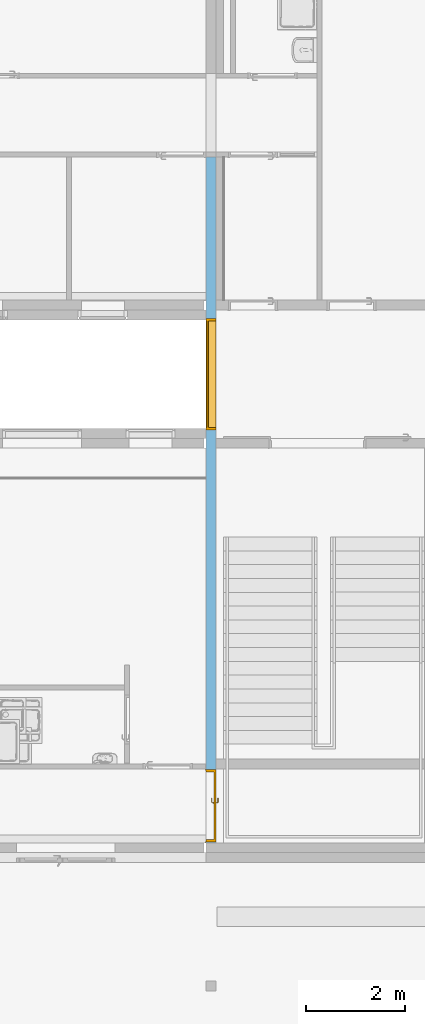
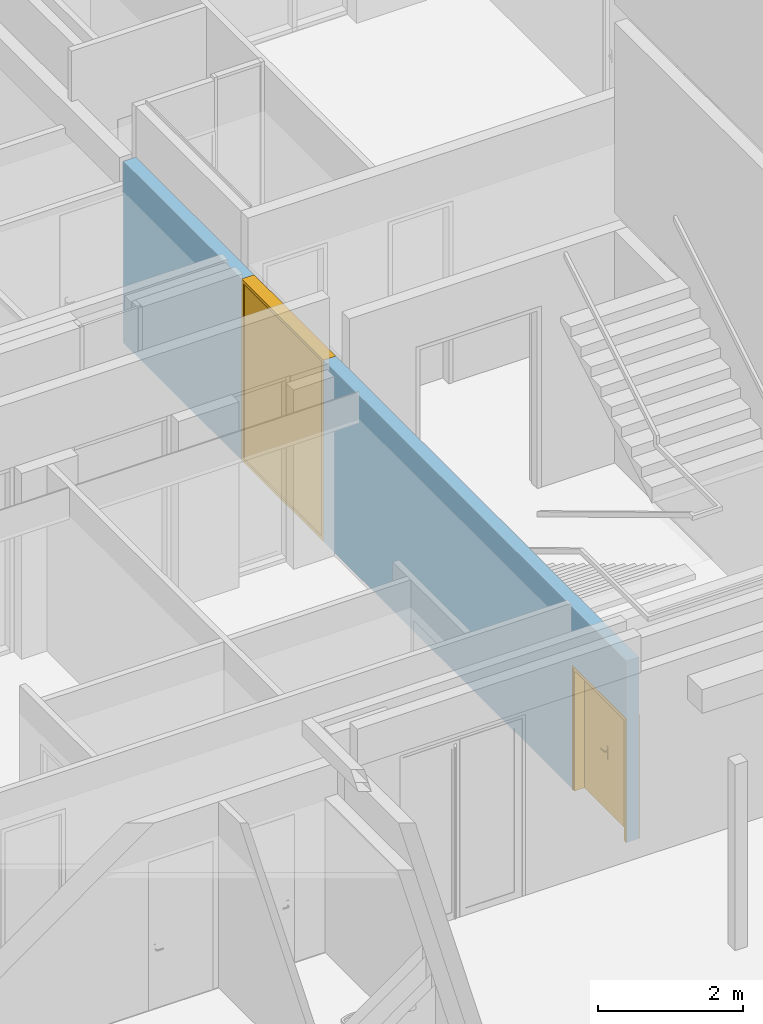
# One storey, part 210 of 240: 1 door, 1 window, 2 openings, plus 1 element that does not belong to this part.
"""IFC2X3 building model written with IfcOpenShell, lengths in centimetres."""

import ifcopenshell
import ifcopenshell.guid

model = None  # the IFC model being written
_history = None  # IfcOwnerHistory: only IFC2X3 demands one
_inside = {}  # id of a spatial element -> (the spatial element, [elements in it])
_under = {}  # id of a project, library or spatial element -> (it, [spatial elements below it])
_declared = {}  # id of a project -> (the project, [libraries it declares])
_typed = {}  # id of a type object -> (the type object, [elements of that type])
_made_of = {}  # id of a material, layer set ... -> (it, [elements and type objects made of it])


def new_model(schema):
    """Start an empty IFC model of exactly this schema.

    Asked for "IFC4X3", IfcOpenShell would pick the latest addendum, in which some entities
    have other attributes; the version numbers below select the first issue.
    IFC2X3 requires an IfcOwnerHistory on every rooted entity: one is made here for all.
    """
    global model, _history
    if schema == "IFC4X3":
        model = ifcopenshell.file(schema_version=(4, 3, 0, 0))
    else:
        model = ifcopenshell.file(schema=schema)
    _inside.clear()
    _under.clear()
    _declared.clear()
    _typed.clear()
    _made_of.clear()
    _history = None
    if model.schema == "IFC2X3":
        org = make("IfcOrganization", Name="unknown")
        user = make(
            "IfcPersonAndOrganization",
            ThePerson=make("IfcPerson", FamilyName="unknown"),
            TheOrganization=org,
        )
        app = make(
            "IfcApplication",
            ApplicationDeveloper=org,
            Version="unknown",
            ApplicationFullName="unknown",
            ApplicationIdentifier="unknown",
        )
        _history = make(
            "IfcOwnerHistory",
            OwningUser=user,
            OwningApplication=app,
            ChangeAction="ADDED",
            CreationDate=0,
        )
    return model


def make(cls, **values):
    """One entity of the class cls with the attributes given. An attribute that is None is left unset."""
    return model.create_entity(
        cls, **{name: value for name, value in values.items() if value is not None}
    )


def entity(cls, *values):
    """Any entity or typed value of the class cls, its attributes in the order of the schema. None: left unset."""
    e = model.create_entity(cls)
    for i, value in enumerate(values):
        if value is not None:
            e[i] = value
    return e


def rooted(cls, **values):
    """An entity with a GlobalId (a new one), such as an element, a storey or a relation."""
    return make(cls, GlobalId=ifcopenshell.guid.new(), OwnerHistory=_history, **values)


def si_unit(unit_type, name, prefix=None):
    """IfcSIUnit, for example si_unit("LENGTHUNIT", "METRE", prefix="MILLI")."""
    return make("IfcSIUnit", UnitType=unit_type, Prefix=prefix, Name=name)


def converted_unit(unit_type, name, factor, base, dimensions=None, offset=None):
    """IfcConversionBasedUnit, such as the inch: factor (a typed value) times the base unit."""
    return make(
        "IfcConversionBasedUnit"
        if offset is None
        else "IfcConversionBasedUnitWithOffset",
        ConversionOffset=offset,
        Dimensions=None
        if dimensions is None
        else entity("IfcDimensionalExponents", *dimensions),
        UnitType=unit_type,
        Name=name,
        ConversionFactor=make(
            "IfcMeasureWithUnit", ValueComponent=factor, UnitComponent=base
        ),
    )


def derived_unit(unit_type, elements):
    """IfcDerivedUnit: a product of units, each with its exponent."""
    return make(
        "IfcDerivedUnit",
        Elements=[
            make("IfcDerivedUnitElement", Unit=unit, Exponent=power)
            for unit, power in elements
        ],
        UnitType=unit_type,
    )


def assignment(units):
    """IfcUnitAssignment: the units of a project."""
    return None if units is None else make("IfcUnitAssignment", Units=units)


def point(xyz):
    """IfcCartesianPoint."""
    return None if xyz is None else make("IfcCartesianPoint", Coordinates=xyz)


def direction(xyz):
    """IfcDirection."""
    return None if xyz is None else make("IfcDirection", DirectionRatios=xyz)


def frame(location, z_axis=None, x_axis=None):
    """IfcAxis2Placement3D, a coordinate frame: its origin and axes. An axis left out is left unset."""
    return make(
        "IfcAxis2Placement3D",
        Location=point(location),
        Axis=direction(z_axis),
        RefDirection=direction(x_axis),
    )


def frame_2d(location, x_axis=None):
    """IfcAxis2Placement2D, a coordinate frame in the plane: its origin and x axis."""
    return make(
        "IfcAxis2Placement2D", Location=point(location), RefDirection=direction(x_axis)
    )


def origin():
    """The frame at (0, 0, 0) with its axes left unset."""
    return frame((0.0, 0.0, 0.0))


def place(relative_to, where):
    """IfcLocalPlacement: puts the frame where relative to a parent placement (None: the world)."""
    return make(
        "IfcLocalPlacement", PlacementRelTo=relative_to, RelativePlacement=where
    )


def context(
    kind, dimensions, precision=None, world=None, true_north=None, identifier=None
):
    """IfcGeometricRepresentationContext, for example the 3D "Model" context."""
    return make(
        "IfcGeometricRepresentationContext",
        ContextIdentifier=identifier,
        ContextType=kind,
        CoordinateSpaceDimension=dimensions,
        Precision=precision,
        WorldCoordinateSystem=world,
        TrueNorth=true_north,
    )


def subcontext(parent, identifier, kind, view, scale=None):
    """IfcGeometricRepresentationSubContext, for example "Body" below "Model"."""
    return make(
        "IfcGeometricRepresentationSubContext",
        ContextIdentifier=identifier,
        ContextType=kind,
        ParentContext=parent,
        TargetScale=scale,
        TargetView=view,
    )


def project(units=None, contexts=None):
    """IfcProject with its units and contexts."""
    return rooted(
        "IfcProject",
        Name="project",
        RepresentationContexts=contexts,
        UnitsInContext=assignment(units),
    )


def spatial(cls, under=None, at=None, **own):
    """A site, building, storey or space (cls), placed at a placement, below another one or the project."""
    s = rooted(cls, ObjectPlacement=at, **own)
    if under is not None:
        _under.setdefault(under.id(), (under, []))[1].append(s)
    return s


def profile(cls, at=None, kind="AREA", **sizes):
    """A parametric profile (cls). Its sizes go by their IFC names, for example OverallWidth=200.0."""
    return make(cls, ProfileType=kind, Position=at, **sizes)


def rectangle(**sizes):
    """IfcRectangleProfileDef."""
    return profile("IfcRectangleProfileDef", **sizes)


def extrude(swept, where, along, depth):
    """IfcExtrudedAreaSolid: the profile swept, set in the frame where, extruded along a direction by depth."""
    return make(
        "IfcExtrudedAreaSolid",
        SweptArea=swept,
        Position=where,
        ExtrudedDirection=direction(along),
        Depth=depth,
    )


def faces_of(points, faces, orient=None, outer=None):
    """IfcFace entities. A face is a list of loops; a loop is a list of indices into points, from 0.

    orient and outer hold one flag for each loop. By default every Orientation is true, the
    first loop of a face is its IfcFaceOuterBound and the others are IfcFaceBound.
    """
    made = []
    for i, loops in enumerate(faces):
        bounds = []
        for j, loop in enumerate(loops):
            is_outer = j == 0 if outer is None else outer[i][j]
            bounds.append(
                make(
                    "IfcFaceOuterBound" if is_outer else "IfcFaceBound",
                    Bound=make("IfcPolyLoop", Polygon=[points[k] for k in loop]),
                    Orientation=True if orient is None else orient[i][j],
                )
            )
        made.append(make("IfcFace", Bounds=bounds))
    return made


def faceted_brep(points, faces, orient=None, outer=None, voids=None):
    """IfcFacetedBrep: a solid bounded by flat faces; with voids (closed shells), ...WithVoids."""
    shared = [point(p) for p in points]
    hull = make("IfcClosedShell", CfsFaces=faces_of(shared, faces, orient, outer))
    if voids is None:
        return make("IfcFacetedBrep", Outer=hull)
    return make(
        "IfcFacetedBrepWithVoids",
        Outer=hull,
        Voids=[
            make(cls, CfsFaces=faces_of(shared, fs, o, b)) for cls, fs, o, b in voids
        ],
    )


def shape(context_of_items, identifier, shape_type, items):
    """IfcShapeRepresentation: the items that make up one representation, for example the "Body"."""
    return make(
        "IfcShapeRepresentation",
        ContextOfItems=context_of_items,
        RepresentationIdentifier=identifier,
        RepresentationType=shape_type,
        Items=items,
    )


def source(mapping_origin, context_of_items, identifier, shape_type, items):
    """IfcRepresentationMap: a shape defined once, which mapped items show again and again."""
    return make(
        "IfcRepresentationMap",
        MappingOrigin=mapping_origin,
        MappedRepresentation=shape(context_of_items, identifier, shape_type, items),
    )


def transform(
    local_origin,
    x_axis=None,
    y_axis=None,
    z_axis=None,
    scale=None,
    scale2=None,
    scale3=None,
    uniform=True,
):
    """IfcCartesianTransformationOperator3D, or its non-uniform kind. x_axis, y_axis, z_axis: its Axis1, 2, 3."""
    if uniform:
        return make(
            "IfcCartesianTransformationOperator3D",
            Axis1=direction(x_axis),
            Axis2=direction(y_axis),
            LocalOrigin=point(local_origin),
            Scale=scale,
            Axis3=direction(z_axis),
        )
    return make(
        "IfcCartesianTransformationOperator3DnonUniform",
        Axis1=direction(x_axis),
        Axis2=direction(y_axis),
        LocalOrigin=point(local_origin),
        Scale=scale,
        Axis3=direction(z_axis),
        Scale2=scale2,
        Scale3=scale3,
    )


def mapped(mapping_source, mapping_target):
    """IfcMappedItem: shows the shape of a source again, moved by a transform."""
    return make(
        "IfcMappedItem", MappingSource=mapping_source, MappingTarget=mapping_target
    )


def material(Name=None, Category=None):
    """IfcMaterial."""
    return make("IfcMaterial", Name=Name, Category=Category)


def material_list(materials):
    """IfcMaterialList."""
    return make("IfcMaterialList", Materials=materials)


def layer(
    of_material, thickness, ventilated=None, Name=None, Category=None, Priority=None
):
    """IfcMaterialLayer: one layer of a wall or slab, of a material (None: an air gap)."""
    return make(
        "IfcMaterialLayer",
        Material=of_material,
        LayerThickness=thickness,
        IsVentilated=ventilated,
        Name=Name,
        Category=Category,
        Priority=Priority,
    )


def layer_set(layers, Name=None):
    """IfcMaterialLayerSet."""
    return make("IfcMaterialLayerSet", MaterialLayers=layers, LayerSetName=Name)


def layer_usage(for_layer_set, set_direction, sense, offset, extent=None):
    """IfcMaterialLayerSetUsage: how a layer set lies in its element."""
    return make(
        "IfcMaterialLayerSetUsage",
        ForLayerSet=for_layer_set,
        LayerSetDirection=set_direction,
        DirectionSense=sense,
        OffsetFromReferenceLine=offset,
        ReferenceExtent=extent,
    )


def made_of(thing, what):
    """Note that an element or type object is made of a material, layer set ...; save() writes the relation."""
    if what is not None:
        _made_of.setdefault(what.id(), (what, []))[1].append(thing)
    return thing


def type_object(cls, material=None, **own):
    """A type object (cls), such as IfcWallType, which elements share."""
    return made_of(rooted(cls, **own), material)


def type_shapes(of_type, sources):
    """Give a type object the sources (RepresentationMaps) that its elements show as mapped items."""
    of_type.RepresentationMaps = sources


def element(
    cls,
    number,
    at=None,
    inside=None,
    cuts=None,
    type_object=None,
    material=None,
    context=None,
    identifier="Body",
    shape_type=None,
    held_by="IfcProductDefinitionShape",
    body=None,
    shapes=None,
    **own,
):
    """One element of the class cls, such as IfcWall. Its Tag is "e" and its number.

    at: its placement. inside: the storey or other place that contains it. cuts: it is an
    opening in that element (IfcRelVoidsElement). A single representation is given by context,
    identifier, shape_type and body (its items); several are given by shapes. held_by: the class
    of the entity that holds the representations. save() writes the other relations.
    """
    e = rooted(cls, Tag="e%d" % number, ObjectPlacement=at, **own)
    if body is not None:
        shapes = [shape(context, identifier, shape_type, body)]
    if shapes is not None:
        e.Representation = make(held_by, Representations=shapes)
    if inside is not None:
        _inside.setdefault(inside.id(), (inside, []))[1].append(e)
    if cuts is not None:
        rooted(
            "IfcRelVoidsElement", RelatingBuildingElement=cuts, RelatedOpeningElement=e
        )
    if type_object is not None:
        _typed.setdefault(type_object.id(), (type_object, []))[1].append(e)
    return made_of(e, material)


def fill(opening, filler):
    """IfcRelFillsElement: the door or window that sits in an opening."""
    return rooted(
        "IfcRelFillsElement",
        RelatingOpeningElement=opening,
        RelatedBuildingElement=filler,
    )


def aggregate(whole, parts):
    """IfcRelAggregates: a whole, such as a stair, and the parts it consists of."""
    return rooted("IfcRelAggregates", RelatingObject=whole, RelatedObjects=parts)


def save(model, path):
    """Write the relations noted so far, then the file.

    IfcRelAggregates (storeys below a building ...), IfcRelContainedInSpatialStructure (elements
    in a storey), IfcRelDefinesByType, IfcRelAssociatesMaterial and IfcRelDeclares: one each for
    every whole, place, type object, material and project.
    """
    for whole, parts in _under.values():
        aggregate(whole, parts)
    for where, things in _inside.values():
        rooted(
            "IfcRelContainedInSpatialStructure",
            RelatedElements=things,
            RelatingStructure=where,
        )
    for kind, things in _typed.values():
        rooted("IfcRelDefinesByType", RelatedObjects=things, RelatingType=kind)
    for what, things in _made_of.values():
        rooted("IfcRelAssociatesMaterial", RelatedObjects=things, RelatingMaterial=what)
    for by, libraries in _declared.values():
        rooted("IfcRelDeclares", RelatingContext=by, RelatedDefinitions=libraries)
    model.write(path)


model = new_model("IFC2X3")

# Units and contexts
model_context = context("Model", 3, precision=0.001, world=origin(), true_north=direction((6.12303176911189e-17, 1.0)))
body_context = subcontext(model_context, "Body", "Model", "MODEL_VIEW")
ifc_project = project(units=[si_unit("LENGTHUNIT", "METRE", prefix="CENTI"), si_unit("AREAUNIT", "SQUARE_METRE"), si_unit("VOLUMEUNIT", "CUBIC_METRE"), converted_unit("PLANEANGLEUNIT", "DEGREE", entity("IfcRatioMeasure", 0.0174532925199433), si_unit("PLANEANGLEUNIT", "RADIAN"), dimensions=[0, 0, 0, 0, 0, 0, 0]), si_unit("MASSUNIT", "GRAM", prefix="KILO"), derived_unit("MASSDENSITYUNIT", [(si_unit("MASSUNIT", "GRAM", prefix="KILO"), 1), (si_unit("LENGTHUNIT", "METRE"), -3)]), si_unit("TIMEUNIT", "SECOND"), si_unit("FREQUENCYUNIT", "HERTZ"), si_unit("THERMODYNAMICTEMPERATUREUNIT", "DEGREE_CELSIUS"), derived_unit("THERMALTRANSMITTANCEUNIT", [(si_unit("MASSUNIT", "GRAM", prefix="KILO"), 1), (si_unit("THERMODYNAMICTEMPERATUREUNIT", "KELVIN"), -1), (si_unit("TIMEUNIT", "SECOND"), -3)]), derived_unit("VOLUMETRICFLOWRATEUNIT", [(si_unit("LENGTHUNIT", "METRE"), 3), (si_unit("TIMEUNIT", "SECOND"), -1)]), si_unit("ELECTRICCURRENTUNIT", "AMPERE"), si_unit("ELECTRICVOLTAGEUNIT", "VOLT"), si_unit("POWERUNIT", "WATT"), si_unit("FORCEUNIT", "NEWTON", prefix="KILO"), si_unit("ILLUMINANCEUNIT", "LUX"), si_unit("LUMINOUSFLUXUNIT", "LUMEN"), si_unit("LUMINOUSINTENSITYUNIT", "CANDELA"), derived_unit("USERDEFINED", [(si_unit("MASSUNIT", "GRAM", prefix="KILO"), -1), (si_unit("LENGTHUNIT", "METRE"), -2), (si_unit("TIMEUNIT", "SECOND"), 3), (si_unit("LUMINOUSFLUXUNIT", "LUMEN"), 1)]), derived_unit("LINEARVELOCITYUNIT", [(si_unit("LENGTHUNIT", "METRE"), 1), (si_unit("TIMEUNIT", "SECOND"), -1)]), si_unit("PRESSUREUNIT", "PASCAL"), derived_unit("USERDEFINED", [(si_unit("LENGTHUNIT", "METRE"), -2), (si_unit("MASSUNIT", "GRAM", prefix="KILO"), 1), (si_unit("TIMEUNIT", "SECOND"), -2)])], contexts=[model_context])

# Site, building, storey
site_placement = place(None, frame((-2781.94577612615, 7442.24238424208, 0.0)))
site = spatial("IfcSite", under=ifc_project, at=site_placement, Name="Default", CompositionType="ELEMENT")
building_placement = place(site_placement, origin())
building = spatial("IfcBuilding", under=site, at=building_placement, CompositionType="ELEMENT")
storey_placement = place(building_placement, origin())
storey = spatial("IfcBuildingStorey", under=building, at=storey_placement, Name="N00 - COO", CompositionType="ELEMENT", Elevation=0.0)

# Wall, openings, window, door
ifc_material_1 = material(Name="01 - Maçonnerie")
ifc_layer = layer(ifc_material_1, 20.0)
ifc_layer_set = layer_set([ifc_layer], Name="Mur de base:04 - Structure - béton - 20cm")
ifc_layer_usage = layer_usage(ifc_layer_set, "AXIS2", "NEGATIVE", 10.0)
wall_type = type_object("IfcWallType", Name="Mur de base:04 - Structure - béton - 20cm", PredefinedType="STANDARD", material=ifc_layer_set)
wall_placement = place(building_placement, frame((-8419.49987766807, -1910.07903364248, 0.0), z_axis=(0.0, 0.0, 1.0), x_axis=(0.0, 1.0, 0.0)))
wall = element("IfcWallStandardCase", 1, at=wall_placement, inside=storey, type_object=wall_type, material=ifc_layer_usage, Name="Mur de base:04 - Structure - béton - 20cm", ObjectType="Mur de base:04 - Structure - béton - 20cm", context=body_context, shape_type="SweptSolid", body=[
    extrude(rectangle(XDim=1390.07903364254, YDim=19.9999999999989, at=frame_2d((695.03951682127, -5.32907051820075e-15), x_axis=(-1.0, 0.0))), origin(), (0.0, 0.0, 1.0), 306.000000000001),
])
opening_1_placement = place(wall_placement, frame((1063.03053265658, 10.0, 0.0)))
opening_1 = element("IfcOpeningElement", 2, at=opening_1_placement, cuts=wall, Name="châssis intérieur vitré:RDC - Pignon -  châssis intérieur vitré (3.11m):1", ObjectType="Opening", context=body_context, shape_type="SweptSolid", body=[
    extrude(rectangle(XDim=306.0, YDim=225.951498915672, at=frame_2d((153.0, 112.975749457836), x_axis=(1.0, 0.0))), frame((0.0, 0.0, 0.0), z_axis=(0.0, -1.0, 0.0), x_axis=(0.0, 0.0, 1.0)), (0.0, 0.0, 1.0), 20.0),
])
opening_2_placement = place(wall_placement, frame((148.5, 10.0, 0.0)))
opening_2 = element("IfcOpeningElement", 3, at=opening_2_placement, cuts=wall, Name="Int. Double:PP (1.40m x 2.04m):1", ObjectType="Opening", context=body_context, shape_type="SweptSolid", body=[
    extrude(rectangle(XDim=207.500000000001, YDim=147.0, at=frame_2d((103.750000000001, 73.5000000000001), x_axis=(1.0, 0.0))), frame((0.0, 0.0, 0.0), z_axis=(0.0, -1.0, 0.0), x_axis=(0.0, 0.0, 1.0)), (0.0, 0.0, 1.0), 20.0),
])
ifc_material_2 = material(Name="Verre")
ifc_material_3 = material(Name="huisserie bois")
ifc_material_list_1 = material_list([ifc_material_2, ifc_material_3])
ifc_material_list_2 = material_list([ifc_material_2, ifc_material_3])
window_style = type_object("IfcWindowStyle", Name="RDC - Pignon -  châssis intérieur vitré (3.11m)", ConstructionType="NOTDEFINED", OperationType="NOTDEFINED", ParameterTakesPrecedence=False, Sizeable=False, material=ifc_material_list_2)
shared_shape_1 = source(origin(), body_context, "Body", "Brep", [
    faceted_brep([(222.951498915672, 5.0, 303.0), (222.951498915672, 5.0, 3.0), (3.0, 5.0, 3.0), (3.0, 5.0, 303.0), (222.951498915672, 2.0, 303.0), (222.951498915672, 2.0, 3.0), (3.0, 2.0, 3.0), (3.0, 2.0, 303.0)], [[[0, 1, 2, 3]], [[1, 0, 4, 5]], [[2, 1, 5, 6]], [[3, 2, 6, 7]], [[4, 7, 6, 5]], [[0, 3, 7, 4]]]),
    faceted_brep([(222.951498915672, 2.0, 303.0), (222.951498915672, 0.0, 303.0), (222.951498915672, 0.0, 3.0), (222.951498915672, 2.0, 3.0), (220.951498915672, 0.0, 5.0), (5.0, 0.0, 5.0), (5.0, 0.0, 301.0), (220.951498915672, 0.0, 301.0), (3.0, 0.0, 303.0), (3.0, 0.0, 3.0), (3.0, 2.0, 3.0), (3.0, 2.0, 303.0), (220.951498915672, 2.0, 301.0), (5.0, 2.0, 301.0), (5.0, 2.0, 5.0), (220.951498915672, 2.0, 5.0)], [[[0, 1, 2, 3]], [[4, 5, 6, 7], [1, 8, 9, 2]], [[3, 2, 9, 10]], [[3, 10, 11, 0], [12, 13, 14, 15]], [[7, 12, 15, 4]], [[4, 15, 14, 5]], [[10, 9, 8, 11]], [[5, 14, 13, 6]], [[11, 8, 1, 0]], [[6, 13, 12, 7]]], outer=[[True], [False, True], [True], [True, False], [True], [True], [True], [True], [True], [True]]),
    faceted_brep([(220.951498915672, 5.0, 301.0), (220.951498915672, 20.0, 301.0), (220.951498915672, 20.0, 5.0), (220.951498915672, 5.0, 5.0), (225.951498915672, 20.0, 0.0), (0.0, 20.0, 0.0), (0.0, 20.0, 306.0), (225.951498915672, 20.0, 306.0), (5.0, 20.0, 301.0), (5.0, 20.0, 5.0), (5.0, 5.0, 5.0), (5.0, 5.0, 301.0), (222.951498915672, 5.0, 303.0), (3.0, 5.0, 303.0), (3.0, 5.0, 3.0), (222.951498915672, 5.0, 3.0), (222.951498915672, 0.0, 303.0), (222.951498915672, 0.0, 3.0), (3.0, 0.0, 3.0), (3.0, 0.0, 303.0), (225.951498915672, 0.0, 306.0), (0.0, 0.0, 306.0), (0.0, 0.0, 0.0), (225.951498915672, 0.0, 0.0)], [[[0, 1, 2, 3]], [[4, 5, 6, 7], [1, 8, 9, 2]], [[3, 2, 9, 10]], [[3, 10, 11, 0], [12, 13, 14, 15]], [[16, 12, 15, 17]], [[17, 15, 14, 18]], [[17, 18, 19, 16], [20, 21, 22, 23]], [[7, 20, 23, 4]], [[4, 23, 22, 5]], [[10, 9, 8, 11]], [[18, 14, 13, 19]], [[5, 22, 21, 6]], [[11, 8, 1, 0]], [[19, 13, 12, 16]], [[6, 21, 20, 7]]], outer=[[True], [True, False], [True], [False, True], [True], [True], [False, True], [True], [True], [True], [True], [True], [True], [True], [True]]),
])
type_shapes(window_style, [shared_shape_1])
window_placement = place(opening_1_placement, frame((0.0, 0.0, 0.0), z_axis=(0.0, 0.0, 1.0), x_axis=(-1.0, 0.0, 0.0)))
window = element("IfcWindow", 4, at=window_placement, inside=storey, type_object=window_style, material=ifc_material_list_1, Name="châssis intérieur vitré:RDC - Pignon -  châssis intérieur vitré (3.11m)", ObjectType="châssis intérieur vitré:RDC - Pignon -  châssis intérieur vitré (3.11m)", OverallHeight=306.0, OverallWidth=225.951498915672, context=body_context, shape_type="MappedRepresentation", body=[
    mapped(shared_shape_1, transform((0.0, 0.0, 0.0), scale=1.0)),
])
fill(opening_1, window)
ifc_material_4 = material(Name="Bois - Panneau de porte")
ifc_material_5 = material(Name="Finition Peinture - Blanc satiné")
ifc_material_6 = material(Name="Bois - Cadre de porte")
ifc_material_list_3 = material_list([ifc_material_4, ifc_material_5, ifc_material_6])
ifc_material_list_4 = material_list([ifc_material_4, ifc_material_5, ifc_material_6])
door_style = type_object("IfcDoorStyle", Name="PP (1.40m x 2.04m)", ConstructionType="NOTDEFINED", OperationType="DOUBLE_DOOR_SINGLE_SWING", ParameterTakesPrecedence=False, Sizeable=False, material=ifc_material_list_4)
shared_shape_2 = source(origin(), body_context, "Body", "Brep", [
    faceted_brep([(73.5000000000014, 4.0, 204.0), (73.5000000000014, 4.0, 0.0), (3.50000000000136, 4.0, 0.0), (3.50000000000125, 4.0, 204.0), (73.5000000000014, 0.0, 204.0), (3.50000000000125, 0.0, 204.0), (3.50000000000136, 0.0, 0.0), (73.5000000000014, 0.0, 0.0)], [[[0, 1, 2, 3]], [[4, 5, 6, 7]], [[3, 5, 4, 0]], [[2, 6, 5, 3]], [[1, 7, 6, 2]], [[0, 4, 7, 1]]]),
    faceted_brep([(80.5352761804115, -0.500000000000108, 86.6003983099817), (81.5000000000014, -0.500000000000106, 87.0), (81.5000000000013, -0.500000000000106, 108.0), (80.5352761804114, -0.500000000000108, 108.399601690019), (79.5000000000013, -0.500000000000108, 108.535898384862), (78.4647238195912, -0.500000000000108, 108.399601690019), (77.5000000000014, -0.500000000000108, 108.0), (77.5000000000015, -0.500000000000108, 87.0), (78.4647238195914, -0.500000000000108, 86.6003983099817), (79.5000000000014, -0.500000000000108, 86.464101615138), (80.5352761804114, 0.0, 108.399601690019), (81.5000000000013, 0.0, 108.0), (81.5000000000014, 0.0, 87.0), (80.5352761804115, 0.0, 86.6003983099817), (79.5000000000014, 0.0, 86.464101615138), (78.4647238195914, 0.0, 86.6003983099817), (77.5000000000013, 0.0, 87.0), (77.5000000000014, 0.0, 108.0), (78.4647238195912, 0.0, 108.399601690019), (79.5000000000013, 0.0, 108.535898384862)], [[[0, 1, 2, 3, 4, 5, 6, 7, 8, 9]], [[10, 11, 12, 13, 14, 15, 16, 17, 18, 19]], [[16, 15, 8, 7]], [[8, 15, 14, 9]], [[14, 13, 0, 9]], [[13, 12, 1, 0]], [[2, 1, 12, 11]], [[11, 10, 3, 2]], [[3, 10, 19, 4]], [[19, 18, 5, 4]], [[18, 17, 6, 5]], [[7, 6, 17, 16]]]),
    faceted_brep([(80.5352761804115, 4.0, 86.6003983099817), (81.5000000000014, 4.0, 87.0), (81.5000000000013, 4.0, 108.0), (80.5352761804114, 4.0, 108.399601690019), (79.5000000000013, 4.0, 108.535898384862), (78.4647238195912, 4.0, 108.399601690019), (77.5000000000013, 4.0, 108.0), (77.5000000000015, 4.0, 87.0), (78.4647238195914, 4.0, 86.6003983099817), (79.5000000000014, 4.0, 86.464101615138), (80.5352761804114, 4.49999999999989, 108.399601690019), (81.5000000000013, 4.49999999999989, 108.0), (81.5000000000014, 4.49999999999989, 87.0), (80.5352761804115, 4.49999999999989, 86.6003983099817), (79.5000000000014, 4.49999999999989, 86.464101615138), (78.4647238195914, 4.49999999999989, 86.6003983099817), (77.5000000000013, 4.49999999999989, 87.0), (77.5000000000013, 4.49999999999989, 108.0), (78.4647238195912, 4.49999999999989, 108.399601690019), (79.5000000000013, 4.49999999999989, 108.535898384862)], [[[0, 1, 2, 3, 4, 5, 6, 7, 8, 9]], [[10, 11, 12, 13, 14, 15, 16, 17, 18, 19]], [[11, 10, 3, 2]], [[3, 10, 19, 4]], [[19, 18, 5, 4]], [[18, 17, 6, 5]], [[7, 6, 17, 16]], [[16, 15, 8, 7]], [[8, 15, 14, 9]], [[14, 13, 0, 9]], [[13, 12, 1, 0]], [[2, 1, 12, 11]]]),
    faceted_brep([(79.2974701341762, -0.500000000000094, 100.778044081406), (79.7025298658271, -0.500000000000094, 100.778044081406), (80.1000000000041, -0.500000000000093, 100.699999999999), (80.1000000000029, -0.500000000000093, 99.3000000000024), (79.7025298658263, -0.500000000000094, 99.2219559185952), (79.2974701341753, -0.500000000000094, 99.221955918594), (78.8999999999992, -0.500000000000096, 99.2999999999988), (78.8999999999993, -0.500000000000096, 100.7), (78.8999999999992, -3.26509507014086, 100.7), (79.2974701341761, -3.10045754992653, 100.778044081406), (80.9023585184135, -4.70534593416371, 100.778044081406), (81.0701397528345, -4.30028620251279, 100.778044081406), (79.7025298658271, -2.93267631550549, 100.778044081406), (80.1000000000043, -2.76803879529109, 100.7), (80.1000000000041, -2.76803879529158, 99.3000000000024), (79.7025298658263, -2.93267631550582, 99.2219559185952), (81.0701397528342, -4.30028620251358, 99.2219559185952), (80.9023585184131, -4.7053459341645, 99.221955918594), (79.2974701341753, -3.10045754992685, 99.221955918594), (78.8999999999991, -3.26509507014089, 99.2999999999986), (80.7377209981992, -5.10281606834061, 100.7), (81.234777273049, -3.90281606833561, 100.7), (81.2347772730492, -3.90281606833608, 99.3000000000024), (80.7377209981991, -5.10281606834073, 99.2999999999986), (89.501864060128, -5.10281606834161, 99.2999999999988), (89.501864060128, -4.70534593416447, 99.221955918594), (89.501864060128, -4.30028620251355, 99.2219559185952), (89.501864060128, -3.9028160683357, 99.3000000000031), (89.501864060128, -3.90281606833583, 100.7), (89.501864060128, -4.30028620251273, 100.778044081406), (89.501864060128, -4.70534593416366, 100.778044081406), (89.501864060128, -5.10281606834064, 100.699999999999), (84.7307697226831, -5.10281606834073, 100.7), (85.2860019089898, -4.50281606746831, 100.78786867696), (85.3683206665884, -3.9028160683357, 100.7), (85.3683206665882, -3.9028160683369, 99.3000000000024), (85.2860018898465, -4.50281607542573, 99.2121313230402), (84.7307700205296, -5.10281606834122, 99.2999999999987)], [[[0, 1, 2, 3, 4, 5, 6, 7]], [[8, 9, 0, 7]], [[9, 10, 11, 12, 1, 0]], [[12, 13, 2, 1]], [[3, 2, 13, 14]], [[14, 15, 4, 3]], [[15, 16, 17, 18, 5, 4]], [[18, 19, 6, 5]], [[7, 6, 19, 8]], [[20, 10, 9, 8]], [[11, 21, 13, 12]], [[14, 13, 21, 22]], [[22, 16, 15, 14]], [[17, 23, 19, 18]], [[8, 19, 23, 20]], [[24, 25, 26, 27, 28, 29, 30, 31]], [[32, 30, 33]], [[31, 30, 32]], [[10, 20, 32]], [[33, 34, 11]], [[21, 11, 34]], [[34, 29, 28]], [[30, 29, 33]], [[29, 34, 33]], [[10, 32, 33]], [[10, 33, 11]], [[22, 21, 34, 28, 27, 35]], [[35, 26, 36]], [[37, 36, 25]], [[22, 35, 16]], [[35, 27, 26]], [[24, 37, 25]], [[23, 17, 37]], [[37, 17, 36]], [[17, 16, 36]], [[16, 35, 36]], [[25, 36, 26]], [[20, 23, 37, 24, 31, 32]]]),
    faceted_brep([(79.2974701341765, 4.4999999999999, 100.778044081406), (78.8999999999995, 4.4999999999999, 100.7), (78.8999999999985, 4.4999999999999, 99.2999999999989), (79.2974701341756, 4.4999999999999, 99.221955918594), (79.7025298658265, 4.4999999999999, 99.2219559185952), (80.1000000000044, 4.49999999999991, 99.3000000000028), (80.1000000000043, 4.49999999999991, 100.7), (79.7025298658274, 4.4999999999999, 100.778044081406), (80.1000000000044, 6.7485204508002, 99.3000000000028), (80.1000000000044, 6.74852045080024, 100.7), (79.7025298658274, 6.91315797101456, 100.778044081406), (81.0838906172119, 8.29451872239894, 100.778044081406), (80.9161093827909, 8.69957845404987, 100.778044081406), (79.2974701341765, 7.08093920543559, 100.778044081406), (78.8999999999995, 7.24557672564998, 100.7), (78.8999999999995, 7.2455767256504, 99.2999999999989), (79.2974701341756, 7.08093920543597, 99.221955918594), (80.9161093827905, 8.69957845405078, 99.221955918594), (81.0838906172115, 8.29451872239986, 99.2219559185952), (79.7025298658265, 6.91315797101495, 99.2219559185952), (81.2485281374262, 7.89704858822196, 99.3000000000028), (81.2485281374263, 7.89704858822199, 100.7), (80.7514718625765, 9.09704858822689, 100.7), (80.7514718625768, 9.0970485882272, 99.2999999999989), (89.5045783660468, 7.89704858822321, 99.3000000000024), (89.5045783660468, 8.29451872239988, 99.2219559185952), (89.5045783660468, 8.6995784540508, 99.221955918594), (89.5045783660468, 9.09704858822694, 99.2999999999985), (89.5045783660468, 9.09704858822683, 100.7), (89.5045783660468, 8.69957845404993, 100.778044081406), (89.5045783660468, 8.294518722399, 100.778044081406), (89.5045783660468, 7.89704858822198, 100.7), (85.3765520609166, 7.89704858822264, 99.3000000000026), (85.3765532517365, 7.89704858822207, 100.7), (85.2942344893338, 8.49704858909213, 100.78786867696), (84.7445205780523, 9.09704858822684, 100.7), (84.7445204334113, 9.09704858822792, 99.2999999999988), (85.2942345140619, 8.49704858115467, 99.2121313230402)], [[[0, 1, 2, 3, 4, 5, 6, 7]], [[6, 5, 8, 9]], [[9, 10, 7, 6]], [[10, 11, 12, 13, 0, 7]], [[13, 14, 1, 0]], [[2, 1, 14, 15]], [[15, 16, 3, 2]], [[16, 17, 18, 19, 4, 3]], [[19, 8, 5, 4]], [[9, 8, 20, 21]], [[21, 11, 10, 9]], [[12, 22, 14, 13]], [[15, 14, 22, 23]], [[23, 17, 16, 15]], [[18, 20, 8, 19]], [[24, 25, 26, 27, 28, 29, 30, 31]], [[21, 20, 32, 24, 31, 33]], [[33, 30, 34]], [[35, 34, 29]], [[21, 33, 11]], [[33, 31, 30]], [[28, 35, 29]], [[22, 12, 35]], [[35, 12, 34]], [[12, 11, 34]], [[11, 33, 34]], [[29, 34, 30]], [[22, 35, 28, 27, 36, 23]], [[36, 26, 37]], [[27, 26, 36]], [[17, 23, 36]], [[37, 32, 18]], [[20, 18, 32]], [[32, 25, 24]], [[26, 25, 37]], [[25, 32, 37]], [[17, 36, 37]], [[17, 37, 18]]]),
    faceted_brep([(73.5000000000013, 4.0, 204.0), (143.500000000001, 4.0, 204.0), (143.500000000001, 4.0, 0.0), (73.5000000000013, 4.0, 0.0), (73.5000000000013, 0.0, 204.0), (73.5000000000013, 0.0, 0.0), (143.500000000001, 0.0, 0.0), (143.500000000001, 0.0, 204.0)], [[[0, 1, 2, 3]], [[4, 5, 6, 7]], [[1, 0, 4, 7]], [[2, 1, 7, 6]], [[3, 2, 6, 5]], [[0, 3, 5, 4]]]),
    faceted_brep([(0.0, 0.0, 0.0), (0.0, 20.0, 0.0), (5.0, 20.0, 0.0), (5.0, 4.0, 0.0), (3.50000000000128, 4.0, 0.0), (3.50000000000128, 0.0, 0.0), (0.0, 0.0, 207.500000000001), (0.0, 20.0, 207.500000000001), (147.0, 20.0, 207.500000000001), (147.0, 20.0, 0.0), (142.0, 20.0, 0.0), (142.0, 20.0, 202.5), (5.0, 20.0, 202.5), (5.0, 4.0, 202.5), (142.0, 4.0, 202.5), (142.0, 4.0, 0.0), (143.499999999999, 4.0, 0.0), (143.499999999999, 4.0, 204.0), (3.50000000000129, 4.0, 204.0), (3.50000000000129, 0.0, 204.0), (143.499999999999, 0.0, 204.0), (143.499999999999, 0.0, 0.0), (147.0, 0.0, 0.0), (147.0, 0.0, 207.500000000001)], [[[0, 1, 2, 3, 4, 5]], [[1, 0, 6, 7]], [[2, 1, 7, 8, 9, 10, 11, 12]], [[3, 2, 12, 13]], [[4, 3, 13, 14, 15, 16, 17, 18]], [[5, 4, 18, 19]], [[0, 5, 19, 20, 21, 22, 23, 6]], [[8, 23, 22, 9]], [[22, 21, 16, 15, 10, 9]], [[14, 11, 10, 15]], [[20, 17, 16, 21]], [[7, 6, 23, 8]], [[13, 12, 11, 14]], [[19, 18, 17, 20]]]),
    faceted_brep([(1.50000000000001, 20.0, 0.0), (-1.49999999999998, 20.0, 0.0), (-1.49999999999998, 20.5000000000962, 0.0), (1.50000000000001, 20.5000000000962, 0.0), (1.50000000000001, 20.0, 206.0), (145.5, 20.0, 206.0), (145.5, 20.0, 0.0), (148.5, 20.0, 0.0), (148.5, 20.0, 209.0), (-1.49999999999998, 20.0, 209.0), (-1.49999999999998, 20.5000000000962, 209.0), (148.5, 20.5000000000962, 209.0), (148.5, 20.5000000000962, 0.0), (145.5, 20.5000000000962, 0.0), (145.5, 20.5000000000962, 206.0), (1.50000000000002, 20.5000000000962, 206.0)], [[[0, 1, 2, 3]], [[1, 0, 4, 5, 6, 7, 8, 9]], [[2, 1, 9, 10]], [[3, 2, 10, 11, 12, 13, 14, 15]], [[0, 3, 15, 4]], [[5, 14, 13, 6]], [[6, 13, 12, 7]], [[11, 8, 7, 12]], [[10, 9, 8, 11]], [[4, 15, 14, 5]]]),
    faceted_brep([(-1.49999999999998, -0.500000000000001, 0.0), (1.50000000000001, -0.500000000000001, 0.0), (1.50000000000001, -0.500000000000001, 206.0), (145.5, -0.500000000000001, 206.0), (145.5, -0.500000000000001, 0.0), (148.5, -0.500000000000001, 0.0), (148.5, -0.500000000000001, 209.0), (-1.49999999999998, -0.500000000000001, 209.0), (-1.49999999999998, 0.0, 0.0), (-1.49999999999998, 0.0, 209.0), (1.50000000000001, 0.0, 0.0), (148.5, 0.0, 209.0), (148.5, 0.0, 0.0), (145.5, 0.0, 0.0), (145.5, 0.0, 206.0), (1.50000000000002, 0.0, 206.0)], [[[0, 1, 2, 3, 4, 5, 6, 7]], [[8, 0, 7, 9]], [[10, 8, 9, 11, 12, 13, 14, 15]], [[1, 10, 15, 2]], [[3, 14, 13, 4]], [[11, 6, 5, 12]], [[9, 7, 6, 11]], [[2, 15, 14, 3]], [[4, 13, 12, 5]], [[1, 0, 8, 10]]]),
])
type_shapes(door_style, [shared_shape_2])
door_placement = place(opening_2_placement, frame((-147.0, -20.0, 0.0)))
door = element("IfcDoor", 5, at=door_placement, inside=storey, type_object=door_style, material=ifc_material_list_3, Name="Int. Double:PP (1.40m x 2.04m)", ObjectType="Int. Double:PP (1.40m x 2.04m)", OverallHeight=207.500000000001, OverallWidth=147.0, context=body_context, shape_type="MappedRepresentation", body=[
    mapped(shared_shape_2, transform((0.0, 0.0, 0.0), scale=1.0)),
])
fill(opening_2, door)

save(model, "model.ifc")
